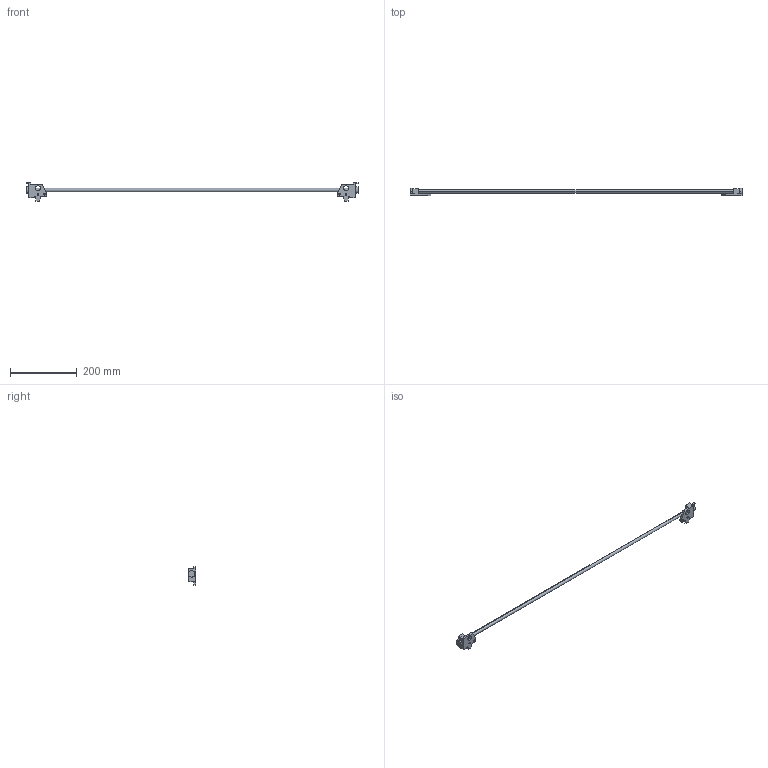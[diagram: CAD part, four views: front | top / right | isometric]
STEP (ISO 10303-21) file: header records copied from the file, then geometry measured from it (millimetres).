
FILE_DESCRIPTION (( 'STEP AP214' ), '1' );
FILE_NAME ('Seitenstabilisator-Set_KAB-1000.step', '2010-09-22T11:14:50', ( 'grass' ), ( '' ), 'SwSTEP 2.0', 'SolidWorks 2010', '' );
FILE_SCHEMA (( 'AUTOMOTIVE_DESIGN' ));
Length unit declared in the file: millimetre
Products named in the file (1): Seitenstabilisator-Set_KAB-1000
Bounding box: 993 x 21.55 x 55.1 mm (x, y, z)
Volume: 118160.9 mm3; surface area: 45177.8 mm2
Topology: 1 solids, 1 shells, 66 faces, 174 edges, 116 vertices
Faces by surface type: plane 40, cylinder 26
Entity records: 2108 total; most frequent: DIRECTION 360, CARTESIAN_POINT 357, ORIENTED_EDGE 348, EDGE_CURVE 174, LINE 122, VECTOR 122, AXIS2_PLACEMENT_3D 119, VERTEX_POINT 116
